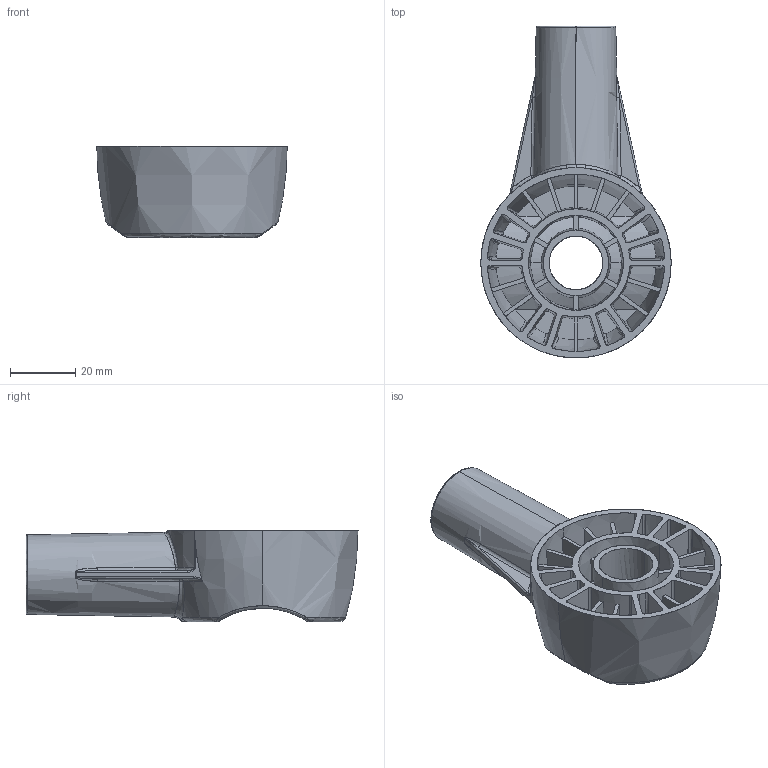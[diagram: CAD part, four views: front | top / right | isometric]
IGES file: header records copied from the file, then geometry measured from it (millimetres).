
Start section: SolidWorks IGES file using analytic representation for surfaces
Global section: file name: R:\DESIGN STORE\PRODUCTS\INDOOR AIRING\C0249 Bed Bath & Beyond X-Wing\stage 1\solidworks\C2\C0249 Iges 091013\C0249_101_C2_hanger rail pivot_A.IGS; native system: SolidWorks 2013; preprocessor: SolidWorks 2013; author: howardm; date: 131009.161216; units: millimetre
Bounding box: 58.22 x 101.54 x 28 mm (x, y, z)
Surface area: 34295.8 mm2 (no closed solid volume)
Topology: 0 solids, 0 shells, 292 faces, 3298 edges, 3296 vertices
Faces by surface type: bspline 226, revolution 66
